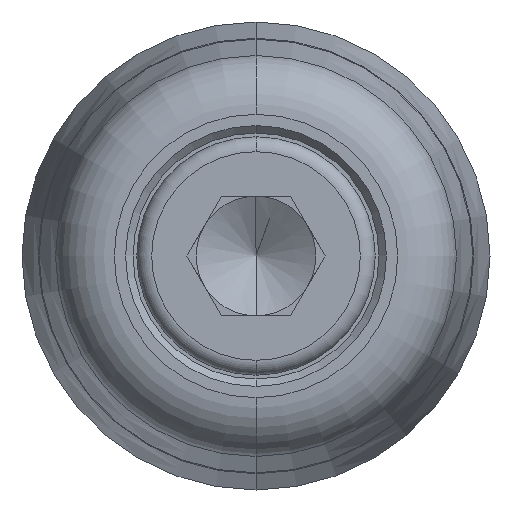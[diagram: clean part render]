
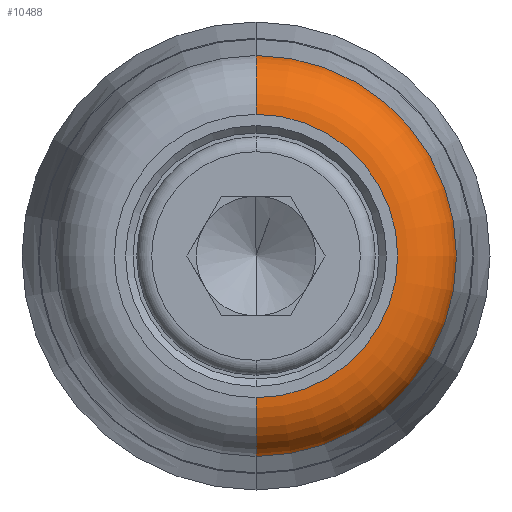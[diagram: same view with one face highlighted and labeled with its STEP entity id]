
A CAD part, front view. The second image highlights one B-rep face of the part: STEP entity #10488.
In plain terms, the highlighted toroidal (fillet/blend) face has major radius 9.508 mm and minor radius 4 mm.
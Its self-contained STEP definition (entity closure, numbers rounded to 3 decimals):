
#352 = AXIS2_PLACEMENT_3D ( 'NONE', #12608, #13784, #392 ) ;
#368 = DIRECTION ( 'NONE',  ( 1., 0., 0. ) ) ;
#392 = DIRECTION ( 'NONE',  ( 0., 0., 1. ) ) ;
#622 = ORIENTED_EDGE ( 'NONE', *, *, #6497, .T. ) ;
#1437 = EDGE_CURVE ( 'NONE', #13883, #10400, #9687, .T. ) ;
#1538 = CIRCLE ( 'NONE', #13963, 13.45 ) ;
#1685 = VERTEX_POINT ( 'NONE', #13202 ) ;
#1978 = AXIS2_PLACEMENT_3D ( 'NONE', #4936, #8367, #2818 ) ;
#2757 = CARTESIAN_POINT ( 'NONE',  ( 0., -20.681, -13.45 ) ) ;
#2818 = DIRECTION ( 'NONE',  ( 0., 0., 1. ) ) ;
#2875 = ORIENTED_EDGE ( 'NONE', *, *, #1437, .F. ) ;
#4077 = AXIS2_PLACEMENT_3D ( 'NONE', #13516, #11246, #12331 ) ;
#4415 = DIRECTION ( 'NONE',  ( 0., 1., 0. ) ) ;
#4521 = CIRCLE ( 'NONE', #4077, 4. ) ;
#4590 = DIRECTION ( 'NONE',  ( 0., 0., -1. ) ) ;
#4756 = EDGE_CURVE ( 'NONE', #10400, #1685, #4521, .T. ) ;
#4853 = AXIS2_PLACEMENT_3D ( 'NONE', #5823, #368, #4590 ) ;
#4936 = CARTESIAN_POINT ( 'NONE',  ( 0., -20., 0. ) ) ;
#5048 = VERTEX_POINT ( 'NONE', #2757 ) ;
#5401 = CARTESIAN_POINT ( 'NONE',  ( 0., -24., -9.508 ) ) ;
#5823 = CARTESIAN_POINT ( 'NONE',  ( 0., -20., -9.508 ) ) ;
#6497 = EDGE_CURVE ( 'NONE', #13883, #5048, #10700, .T. ) ;
#6814 = CARTESIAN_POINT ( 'NONE',  ( 0., -20.681, 0. ) ) ;
#7220 = CARTESIAN_POINT ( 'NONE',  ( 0., -24., 9.508 ) ) ;
#8367 = DIRECTION ( 'NONE',  ( 0., 1., 0. ) ) ;
#8394 = EDGE_LOOP ( 'NONE', ( #2875, #622, #10495, #8963 ) ) ;
#8963 = ORIENTED_EDGE ( 'NONE', *, *, #4756, .F. ) ;
#9687 = CIRCLE ( 'NONE', #352, 9.508 ) ;
#10400 = VERTEX_POINT ( 'NONE', #7220 ) ;
#10488 = ADVANCED_FACE ( 'NONE', ( #12412 ), #11011, .T. ) ;
#10495 = ORIENTED_EDGE ( 'NONE', *, *, #10903, .F. ) ;
#10700 = CIRCLE ( 'NONE', #4853, 4. ) ;
#10903 = EDGE_CURVE ( 'NONE', #1685, #5048, #1538, .T. ) ;
#11011 = TOROIDAL_SURFACE ( 'NONE', #1978, 9.508, 4. ) ;
#11246 = DIRECTION ( 'NONE',  ( -1., 0., 0. ) ) ;
#12269 = DIRECTION ( 'NONE',  ( 0., 0., -1. ) ) ;
#12331 = DIRECTION ( 'NONE',  ( 0., 0., 1. ) ) ;
#12412 = FACE_OUTER_BOUND ( 'NONE', #8394, .T. ) ;
#12608 = CARTESIAN_POINT ( 'NONE',  ( 0., -24., 0. ) ) ;
#13202 = CARTESIAN_POINT ( 'NONE',  ( 0., -20.681, 13.45 ) ) ;
#13516 = CARTESIAN_POINT ( 'NONE',  ( 0., -20., 9.508 ) ) ;
#13784 = DIRECTION ( 'NONE',  ( 0., -1., 0. ) ) ;
#13883 = VERTEX_POINT ( 'NONE', #5401 ) ;
#13963 = AXIS2_PLACEMENT_3D ( 'NONE', #6814, #4415, #12269 ) ;
